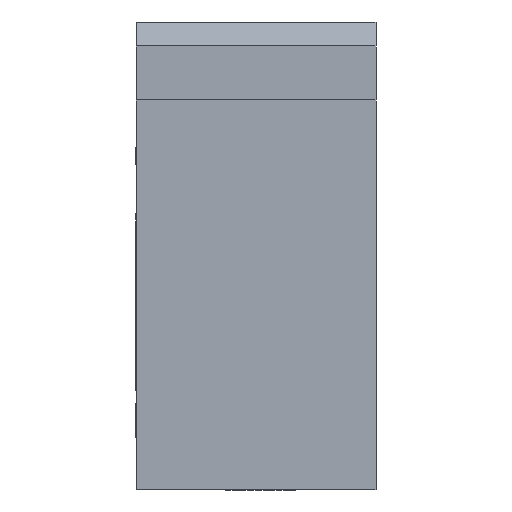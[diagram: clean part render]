
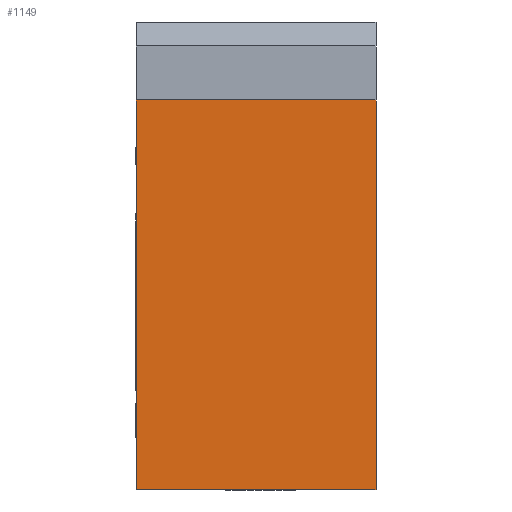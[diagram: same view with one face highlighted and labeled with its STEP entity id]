
A CAD part, front view. The second image highlights one B-rep face of the part: STEP entity #1149.
In plain terms, the highlighted planar face has unit normal (0, -1, 0).
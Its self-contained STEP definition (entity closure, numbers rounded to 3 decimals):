
#238=CARTESIAN_POINT('Vertex',(-10.,-30.,-22.)) ;
#241=CARTESIAN_POINT('Line Origine',(-10.,-30.,-5.75)) ;
#245=CARTESIAN_POINT('Vertex',(-10.,-30.,10.5)) ;
#1049=CARTESIAN_POINT('Line Origine',(0.,-30.,-22.)) ;
#1053=CARTESIAN_POINT('Vertex',(10.,-30.,-22.)) ;
#1126=CARTESIAN_POINT('Axis2P3D Location',(0.,-30.,-22.)) ;
#1131=CARTESIAN_POINT('Line Origine',(0.,-30.,10.5)) ;
#1135=CARTESIAN_POINT('Vertex',(10.,-30.,10.5)) ;
#1138=CARTESIAN_POINT('Line Origine',(10.,-30.,-5.75)) ;
#242=DIRECTION('Vector Direction',(0.,0.,1.)) ;
#1050=DIRECTION('Vector Direction',(1.,0.,0.)) ;
#1127=DIRECTION('Axis2P3D Direction',(0.,1.,0.)) ;
#1128=DIRECTION('Axis2P3D XDirection',(0.,0.,1.)) ;
#1132=DIRECTION('Vector Direction',(1.,0.,0.)) ;
#1139=DIRECTION('Vector Direction',(0.,0.,1.)) ;
#1129=AXIS2_PLACEMENT_3D('Plane Axis2P3D',#1126,#1127,#1128) ;
#1144=ORIENTED_EDGE('',*,*,#1137,.F.) ;
#1145=ORIENTED_EDGE('',*,*,#247,.T.) ;
#1146=ORIENTED_EDGE('',*,*,#1055,.T.) ;
#1147=ORIENTED_EDGE('',*,*,#1142,.F.) ;
#243=VECTOR('Line Direction',#242,1.) ;
#1051=VECTOR('Line Direction',#1050,1.) ;
#1133=VECTOR('Line Direction',#1132,1.) ;
#1140=VECTOR('Line Direction',#1139,1.) ;
#1149=ADVANCED_FACE('BF10(H)',(#1148),#1130,.F.) ;
#247=EDGE_CURVE('',#246,#239,#244,.F.) ;
#1055=EDGE_CURVE('',#239,#1054,#1052,.T.) ;
#1137=EDGE_CURVE('',#246,#1136,#1134,.T.) ;
#1142=EDGE_CURVE('',#1136,#1054,#1141,.F.) ;
#1143=EDGE_LOOP('',(#1144,#1145,#1146,#1147)) ;
#1148=FACE_OUTER_BOUND('',#1143,.T.) ;
#244=LINE('Line',#241,#243) ;
#1052=LINE('Line',#1049,#1051) ;
#1134=LINE('Line',#1131,#1133) ;
#1141=LINE('Line',#1138,#1140) ;
#1130=PLANE('Plane',#1129) ;
#239=VERTEX_POINT('',#238) ;
#246=VERTEX_POINT('',#245) ;
#1054=VERTEX_POINT('',#1053) ;
#1136=VERTEX_POINT('',#1135) ;
